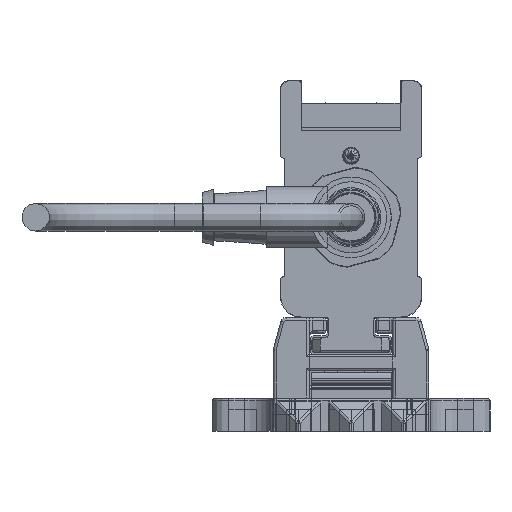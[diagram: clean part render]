
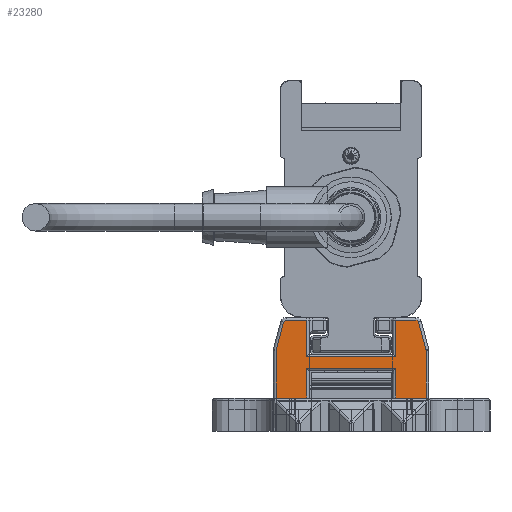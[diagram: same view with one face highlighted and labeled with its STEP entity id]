
A CAD part, left-side view. The second image highlights one B-rep face of the part: STEP entity #23280.
In plain terms, the highlighted planar face has unit normal (-1, 0, 0).
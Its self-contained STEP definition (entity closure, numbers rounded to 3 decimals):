
#23280=ADVANCED_FACE('', (#23290), #23300, .T.);
#141290=AXIS2_PLACEMENT_3D('Ax2Pl3d', #141300, #141310, #141320);
#141530=AXIS2_PLACEMENT_3D('Ax2Pl3d', #141540, #141550, #141560);
#146410=AXIS2_PLACEMENT_3D('Ax2Pl3d', #146420, #146430, #146440);
#151490=AXIS2_PLACEMENT_3D('Ax2Pl3d', #151500, #151510, #151520);
#161170=AXIS2_PLACEMENT_3D('Ax2Pl3d', #161180, #161190, #161200);
#583560=CARTESIAN_POINT('', (-747.669,-3926.345,
331.37));
#141300=CARTESIAN_POINT('HicPkt', (-747.669,-3925.379,
331.111));
#583570=CARTESIAN_POINT('', (-747.669,-3926.379,
331.111));
#583580=CARTESIAN_POINT('', (-747.669,-3925.037,
336.255));
#583600=CARTESIAN_POINT('', (-747.669,-3925.037,
336.255));
#583630=CARTESIAN_POINT('', (-747.669,-3924.554,
336.625));
#141540=CARTESIAN_POINT('HicPkt', (-747.669,-3924.554,
336.125));
#583850=CARTESIAN_POINT('', (-747.669,-3926.379,
322.625));
#583860=CARTESIAN_POINT('', (-747.669,-3920.881,
322.625));
#583870=CARTESIAN_POINT('', (-747.669,-3920.881,
322.625));
#583950=CARTESIAN_POINT('', (-747.669,-3904.881,
322.625));
#583960=CARTESIAN_POINT('', (-747.669,-3899.383,
322.625));
#583970=CARTESIAN_POINT('', (-747.669,-3899.383,
322.625));
#146420=CARTESIAN_POINT('HicPkt', (-747.669,-3901.209,
336.125));
#586440=CARTESIAN_POINT('', (-747.669,-3900.726,
336.255));
#586450=CARTESIAN_POINT('', (-747.669,-3901.209,
336.625));
#586460=CARTESIAN_POINT('', (-747.669,-3920.881,
330.025));
#586470=CARTESIAN_POINT('', (-747.669,-3904.881,
330.025));
#586480=CARTESIAN_POINT('', (-747.669,-3920.881,
330.025));
#586640=CARTESIAN_POINT('', (-747.669,-3920.881,328.005)
);
#586650=CARTESIAN_POINT('', (-747.669,-3904.881,328.005)
);
#586660=CARTESIAN_POINT('', (-747.669,-3904.881,328.005)
);
#586670=CARTESIAN_POINT('', (-747.669,-3920.881,328.005)
);
#586690=CARTESIAN_POINT('', (-747.669,-3904.881,
322.625));
#586700=CARTESIAN_POINT('', (-747.669,-3904.881,
330.025));
#586710=CARTESIAN_POINT('', (-747.669,-3904.881,
336.625));
#587560=CARTESIAN_POINT('', (-747.669,-3904.881,
336.625));
#587570=CARTESIAN_POINT('', (-747.669,-3900.726,
336.255));
#587580=CARTESIAN_POINT('', (-747.669,-3899.417,
331.37));
#587770=CARTESIAN_POINT('', (-747.669,-3899.383,
331.111));
#587780=CARTESIAN_POINT('', (-747.669,-3899.383,
331.111));
#151500=CARTESIAN_POINT('HicPkt', (-747.669,-3900.383,
331.111));
#588590=CARTESIAN_POINT('', (-747.669,-3926.379,
331.111));
#161180=CARTESIAN_POINT('HicPkt', (-747.669,-3924.554,
336.625));
#590390=CARTESIAN_POINT('', (-747.669,-3920.881,
336.625));
#590400=CARTESIAN_POINT('', (-747.669,-3920.881,
336.625));
#590410=CARTESIAN_POINT('', (-747.669,-3920.881,
336.625));
#675070=CIRCLE('Circle', #141290, 1.);
#675110=CIRCLE('Circle', #141530, 0.5);
#675690=CIRCLE('Circle', #146410, 0.5);
#676220=CIRCLE('Circle', #151490, 1.);
#141310=DIRECTION('Axis', (-1.,0.,
0.));
#141320=DIRECTION('RefDirection', (0.,
0.,-1.));
#942570=DIRECTION('', (0.,0.259,
0.966));
#141550=DIRECTION('Axis', (-1.,0.,
0.));
#141560=DIRECTION('RefDirection', (0.,
0.,-1.));
#942680=DIRECTION('', (0.,1.,0.));
#942720=DIRECTION('', (0.,1.,0.));
#146430=DIRECTION('Axis', (1.,0.,
0.));
#146440=DIRECTION('RefDirection', (0.,
0.,-1.));
#943910=DIRECTION('', (0.,-1.,0.));
#944010=DIRECTION('', (0.,1.,0.));
#944020=DIRECTION('', (0.,0.,1.));
#944040=DIRECTION('', (0.,0.,-1.));
#944050=DIRECTION('', (0.,0.,-1.));
#944480=DIRECTION('', (0.,-1.,0.));
#944490=DIRECTION('', (0.,-0.259,0.966));
#944580=DIRECTION('', (0.,0.,1.));
#151510=DIRECTION('Axis', (1.,0.,
0.));
#151520=DIRECTION('RefDirection', (0.,
0.,-1.));
#944950=DIRECTION('', (0.,0.,1.));
#161190=DIRECTION('Axis', (-1.,0.,
0.));
#161200=DIRECTION('RefDirection', (0.,
0.,-1.));
#945790=DIRECTION('', (0.,1.,0.));
#945800=DIRECTION('', (0.,0.,1.));
#1009400=EDGE_CURVE('', #1009410, #1009390, #675070, .T.);
#1009460=EDGE_CURVE('', #1009390, #1009440, #1009470, .T.);
#1009530=EDGE_CURVE('', #1009440, #1009520, #675110, .T.);
#1009980=EDGE_CURVE('', #1009970, #1009990, #1010000, .T.);
#1010140=EDGE_CURVE('', #1010130, #1010150, #1010160, .T.);
#1014500=EDGE_CURVE('', #1014510, #1014520, #675690, .T.);
#1014550=EDGE_CURVE('', #1014560, #1014570, #1014580, .T.);
#1014920=EDGE_CURVE('', #1014900, #1014930, #1014940, .T.);
#1014970=EDGE_CURVE('', #1009990, #1014900, #1014980, .T.);
#1015010=EDGE_CURVE('', #1014930, #1010130, #1015020, .T.);
#1015030=EDGE_CURVE('', #1015040, #1014560, #1015050, .T.);
#1016870=EDGE_CURVE('', #1014520, #1015040, #1016880, .T.);
#1016940=EDGE_CURVE('', #1016950, #1014510, #1016960, .T.);
#1017380=EDGE_CURVE('', #1010150, #1017390, #1017400, .T.);
#1017420=EDGE_CURVE('', #1017390, #1016950, #676220, .T.);
#1019130=EDGE_CURVE('', #1009970, #1009410, #1019140, .T.);
#1022940=EDGE_CURVE('', #1009520, #1022950, #1022960, .T.);
#1022970=EDGE_CURVE('', #1014570, #1022950, #1022980, .T.);
#1216860=EDGE_LOOP('Edge_loop', (#1216870,#1216880,#1216890,#1216900,
#1216910,#1216920,#1216930,#1216940,#1216950,#1216960,#1216970,
#1216980,#1216990,#1217000,#1217010,#1217020,#1217030,#1217040));
#23290=FACE_OUTER_BOUND('Face_outer_bound', #1216860, .T.);
#1009470=LINE('Line', #583600, #1391440);
#1010000=LINE('Line', #583860, #1391550);
#1010160=LINE('Line', #583960, #1391590);
#1014580=LINE('Line', #586460, #1392780);
#1014940=LINE('Line', #586650, #1392880);
#1014980=LINE('Line', #586670, #1392890);
#1015020=LINE('Line', #586690, #1392910);
#1015050=LINE('Line', #586700, #1392920);
#1016880=LINE('Line', #587560, #1393350);
#1016960=LINE('Line', #587570, #1393360);
#1017400=LINE('Line', #587770, #1393450);
#1019140=LINE('Line', #588590, #1393820);
#1022960=LINE('Line', #590390, #1394660);
#1022980=LINE('Line', #590410, #1394670);
#1216870=ORIENTED_EDGE('', *, *, #1022940, .T.);
#1216880=ORIENTED_EDGE('', *, *, #1022970, .F.);
#1216890=ORIENTED_EDGE('', *, *, #1014550, .F.);
#1216900=ORIENTED_EDGE('', *, *, #1015030, .F.);
#1216910=ORIENTED_EDGE('', *, *, #1016870, .F.);
#1216920=ORIENTED_EDGE('', *, *, #1014500, .F.);
#1216930=ORIENTED_EDGE('', *, *, #1016940, .F.);
#1216940=ORIENTED_EDGE('', *, *, #1017420, .F.);
#1216950=ORIENTED_EDGE('', *, *, #1017380, .F.);
#1216960=ORIENTED_EDGE('', *, *, #1010140, .F.);
#1216970=ORIENTED_EDGE('', *, *, #1015010, .F.);
#1216980=ORIENTED_EDGE('', *, *, #1014920, .F.);
#1216990=ORIENTED_EDGE('', *, *, #1014970, .F.);
#1217000=ORIENTED_EDGE('', *, *, #1009980, .F.);
#1217010=ORIENTED_EDGE('', *, *, #1019130, .T.);
#1217020=ORIENTED_EDGE('', *, *, #1009400, .T.);
#1217030=ORIENTED_EDGE('', *, *, #1009460, .T.);
#1217040=ORIENTED_EDGE('', *, *, #1009530, .T.);
#23300=PLANE('Plane', #161170);
#1391440=VECTOR('', #942570, 5.057);
#1391550=VECTOR('', #942680, 5.498);
#1391590=VECTOR('', #942720, 5.498);
#1392780=VECTOR('', #943910, 16.);
#1392880=VECTOR('', #944010, 16.);
#1392890=VECTOR('', #944020, 5.38);
#1392910=VECTOR('', #944040, 5.38);
#1392920=VECTOR('', #944050, 6.6);
#1393350=VECTOR('', #944480, 3.672);
#1393360=VECTOR('', #944490, 5.057);
#1393450=VECTOR('', #944580, 8.486);
#1393820=VECTOR('', #944950, 8.486);
#1394660=VECTOR('', #945790, 3.672);
#1394670=VECTOR('', #945800, 6.6);
#1009390=VERTEX_POINT('', #583560);
#1009410=VERTEX_POINT('', #583570);
#1009440=VERTEX_POINT('', #583580);
#1009520=VERTEX_POINT('', #583630);
#1009970=VERTEX_POINT('', #583850);
#1009990=VERTEX_POINT('', #583870);
#1010130=VERTEX_POINT('', #583950);
#1010150=VERTEX_POINT('', #583970);
#1014510=VERTEX_POINT('', #586440);
#1014520=VERTEX_POINT('', #586450);
#1014560=VERTEX_POINT('', #586470);
#1014570=VERTEX_POINT('', #586480);
#1014900=VERTEX_POINT('', #586640);
#1014930=VERTEX_POINT('', #586660);
#1015040=VERTEX_POINT('', #586710);
#1016950=VERTEX_POINT('', #587580);
#1017390=VERTEX_POINT('', #587780);
#1022950=VERTEX_POINT('', #590400);
